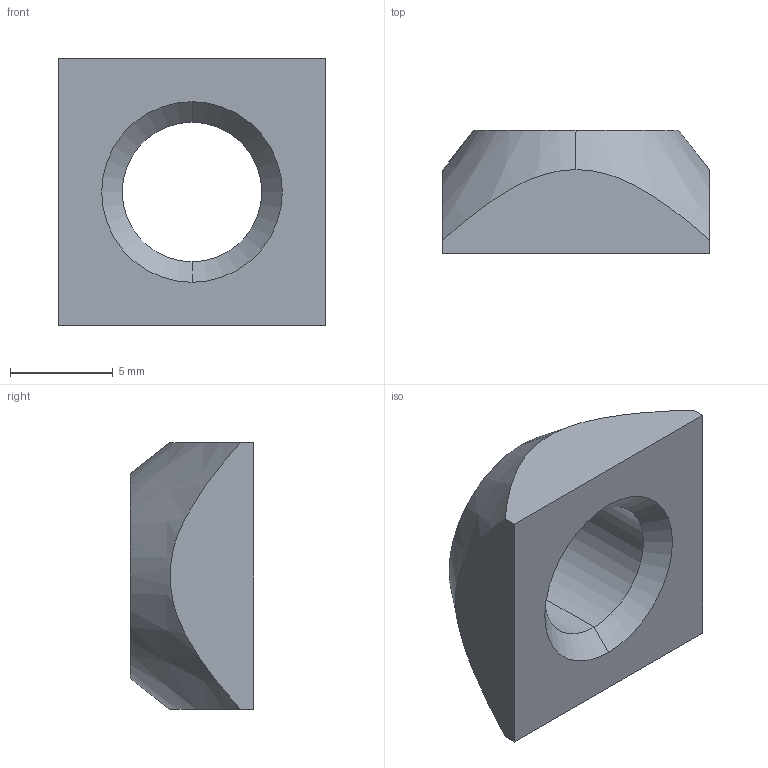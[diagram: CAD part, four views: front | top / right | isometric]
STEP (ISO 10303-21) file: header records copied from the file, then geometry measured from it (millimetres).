
FILE_DESCRIPTION (( 'STEP AP214' ), '1' );
FILE_NAME ('084.302.000 DADI 13x13-1.STEP', '2019-05-23T15:21:43', ( '' ), ( '' ), 'SwSTEP 2.0', 'SolidWorks 2018', '' );
FILE_SCHEMA (( 'AUTOMOTIVE_DESIGN' ));
Length unit declared in the file: millimetre
Products named in the file (1): 084.302.000 DADI  13x13-1
Bounding box: 13 x 6 x 13 mm (x, y, z)
Volume: 619.7 mm3; surface area: 581.1 mm2
Topology: 1 solids, 1 shells, 14 faces, 32 edges, 20 vertices
Faces by surface type: cone 6, plane 6, cylinder 2
Entity records: 544 total; most frequent: CARTESIAN_POINT 169, DIRECTION 66, ORIENTED_EDGE 64, EDGE_CURVE 32, AXIS2_PLACEMENT_3D 25, VERTEX_POINT 20, LINE 16, VECTOR 16
